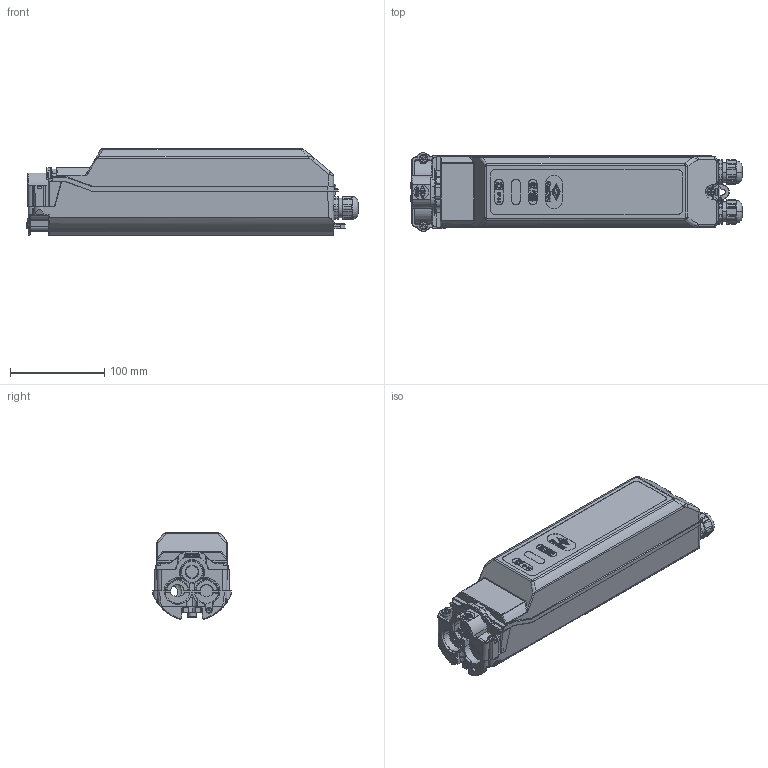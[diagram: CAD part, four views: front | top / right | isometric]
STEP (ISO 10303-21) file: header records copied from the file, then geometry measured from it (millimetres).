
FILE_DESCRIPTION (( 'STEP AP203' ), '1' );
FILE_NAME ('3D - HSW2539-M20 Außenkontur.STEP', '2019-06-28T09:26:12', ( '' ), ( '' ), 'SwSTEP 2.0', 'SolidWorks 2013', '' );
FILE_SCHEMA (( 'CONFIG_CONTROL_DESIGN' ));
Products named in the file (1): 3D - HSW2539-M20 Außenkontur
Bounding box: 353.13 x 83.5 x 91.61 mm (x, y, z)
Surface area: 137994.6 mm2 (no closed solid volume)
Topology: 0 solids, 28 shells, 1255 faces, 4559 edges, 3246 vertices
Faces by surface type: plane 556, cylinder 380, bspline 134, cone 95, torus 84, sphere 6
Entity records: 59414 total; most frequent: CARTESIAN_POINT 23157, ORIENTED_EDGE 7294, DIRECTION 6797, EDGE_CURVE 4551, VERTEX_POINT 3246, LINE 2579, VECTOR 2579, AXIS2_PLACEMENT_3D 2109
